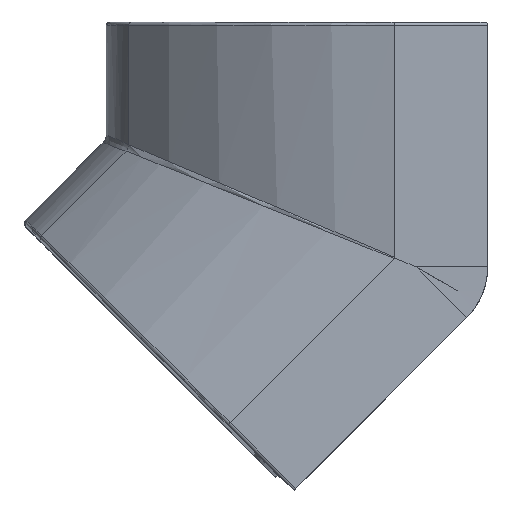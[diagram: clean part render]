
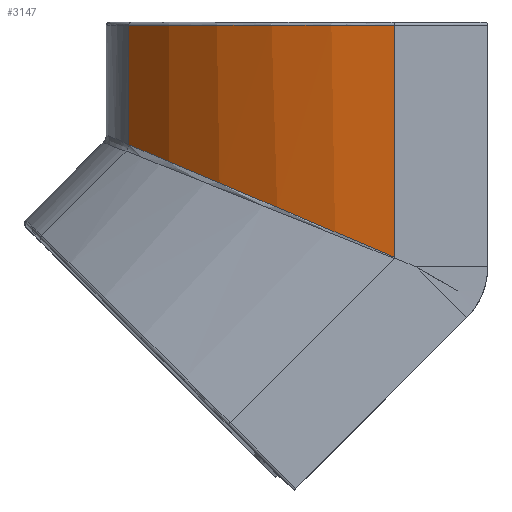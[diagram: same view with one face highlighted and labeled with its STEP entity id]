
A CAD part, front view. The second image highlights one B-rep face of the part: STEP entity #3147.
In plain terms, the highlighted cylindrical face has radius 18 mm (diameter 36 mm), a partial arc.
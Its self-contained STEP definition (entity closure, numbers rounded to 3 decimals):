
#125 = CARTESIAN_POINT ( 'NONE',  ( -14.268, -12.458, 4.85 ) ) ;
#129 = ORIENTED_EDGE ( 'NONE', *, *, #2616, .T. ) ;
#179 = ORIENTED_EDGE ( 'NONE', *, *, #6081, .T. ) ;
#236 = VECTOR ( 'NONE', #5246, 1000. ) ;
#257 = DIRECTION ( 'NONE',  ( 0., 0., 1. ) ) ;
#313 = DIRECTION ( 'NONE',  ( 0., 0., -1. ) ) ;
#433 = VERTEX_POINT ( 'NONE', #2131 ) ;
#680 = CARTESIAN_POINT ( 'NONE',  ( -26.468, -4.5, -8. ) ) ;
#983 = CYLINDRICAL_SURFACE ( 'NONE', #5954, 18. ) ;
#1658 = CIRCLE ( 'NONE', #5024, 18. ) ;
#1717 = DIRECTION ( 'NONE',  ( 1., 0., 0. ) ) ;
#1765 = VECTOR ( 'NONE', #6055, 1000. ) ;
#1919 = DIRECTION ( 'NONE',  ( 1., 0., 0. ) ) ;
#2007 = ORIENTED_EDGE ( 'NONE', *, *, #6094, .T. ) ;
#2131 = CARTESIAN_POINT ( 'NONE',  ( -26.468, -4.5, -0.626 ) ) ;
#2357 = CARTESIAN_POINT ( 'NONE',  ( -11.375, 5.308, 4.85 ) ) ;
#2385 = CARTESIAN_POINT ( 'NONE',  ( -19.35, -11.631, -3.63 ) ) ;
#2405 = FACE_OUTER_BOUND ( 'NONE', #5325, .T. ) ;
#2616 = EDGE_CURVE ( 'NONE', #4207, #6568, #5450, .T. ) ;
#2699 = CARTESIAN_POINT ( 'NONE',  ( -14.268, -12.458, -5.79 ) ) ;
#3048 = EDGE_CURVE ( 'NONE', #433, #4709, #3673, .T. ) ;
#3147 = ADVANCED_FACE ( 'NONE', ( #2405 ), #983, .T. ) ;
#3454 = ORIENTED_EDGE ( 'NONE', *, *, #3048, .F. ) ;
#3591 = CARTESIAN_POINT ( 'NONE',  ( -26.468, -4.5, 4.85 ) ) ;
#3673 = LINE ( 'NONE', #680, #236 ) ;
#4207 = VERTEX_POINT ( 'NONE', #2699 ) ;
#4336 = CARTESIAN_POINT ( 'NONE',  ( -11.375, 5.308, -8. ) ) ;
#4467 = CARTESIAN_POINT ( 'NONE',  ( -14.268, -12.458, -8. ) ) ;
#4709 = VERTEX_POINT ( 'NONE', #3591 ) ;
#4899 = CARTESIAN_POINT ( 'NONE',  ( -26.468, -4.5, -0.626 ) ) ;
#4925 = CARTESIAN_POINT ( 'NONE',  ( -14.268, -12.458, -5.79 ) ) ;
#5024 = AXIS2_PLACEMENT_3D ( 'NONE', #2357, #313, #1919 ) ;
#5246 = DIRECTION ( 'NONE',  ( 0., 0., 1. ) ) ;
#5325 = EDGE_LOOP ( 'NONE', ( #129, #179, #3454, #2007 ) ) ;
#5450 = LINE ( 'NONE', #4467, #1765 ) ;
#5614 = CARTESIAN_POINT ( 'NONE',  ( -23.663, -8.818, -1.804 ) ) ;
#5954 = AXIS2_PLACEMENT_3D ( 'NONE', #4336, #257, #1717 ) ;
#6055 = DIRECTION ( 'NONE',  ( 0., 0., 1. ) ) ;
#6081 = EDGE_CURVE ( 'NONE', #6568, #4709, #1658, .T. ) ;
#6094 = EDGE_CURVE ( 'NONE', #433, #4207, #6142, .T. ) ;
#6142 =( BOUNDED_CURVE ( )  B_SPLINE_CURVE ( 3, ( #4899, #5614, #2385, #4925 ),
 .UNSPECIFIED., .F., .F. ) 
 B_SPLINE_CURVE_WITH_KNOTS ( ( 4, 4 ),
 ( 0.567, 1.401 ),
 .UNSPECIFIED. ) 
 CURVE ( )  GEOMETRIC_REPRESENTATION_ITEM ( )  RATIONAL_B_SPLINE_CURVE ( ( 1., 0.943, 0.943, 1. ) ) 
 REPRESENTATION_ITEM ( '' )  );
#6568 = VERTEX_POINT ( 'NONE', #125 ) ;
